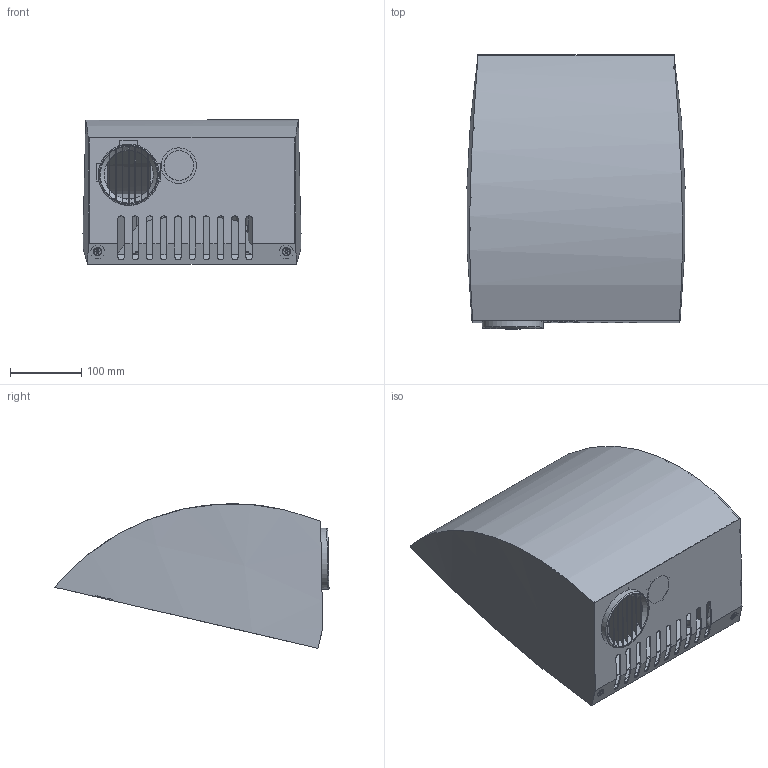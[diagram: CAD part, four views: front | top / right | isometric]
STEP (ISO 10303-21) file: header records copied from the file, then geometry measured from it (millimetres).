
FILE_DESCRIPTION((''),'2;1');
FILE_NAME('M:\Standardvarer\Håndtørrere\280 Dan Dryer - AE Design Rustfri\Tegninger\Public 3D files\280 Dan Dryer - Design AE Rustfri - 230 Volt 50Hz 2360W.stp','2010-05-05T15:19:42',('Dan Dryer'),(''),'Autodesk Inventor 2010','Autodesk Inventor 2010','');
FILE_SCHEMA(('AUTOMOTIVE_DESIGN { 1 0 10303 214 1 1 1 1 }'));
Length unit declared in the file: millimetre
Products named in the file (14): 280 Dan Dryer - Design AE Rustfri - 230 Volt 50Hz 2360W; 40025; 45180; 45180-1; 45180-2; 45180-3; 45180-4; Part6; 40006; 40065; 40096; El-plint - enkelt; 45002; 40073
Assembly tree (19 placements, depth 3):
  280 Dan Dryer - Design AE Rustfri - 230 Volt 50Hz 2360W
    40025
    45180
      45180-1
      45180-2  x3
      45180-3
      45180-4  x2
      Part6
    40006
    40065
    40096
      El-plint - enkelt  x3
    45002
    40073  x2
Bounding box: 306.77 x 385.6 x 203.3 mm (x, y, z)
Volume: 489627 mm3; surface area: 893774.5 mm2
Topology: 17 solids, 18 shells, 752 faces, 2085 edges, 1386 vertices
Faces by surface type: plane 467, cylinder 188, bspline 74, cone 17, torus 6
Full cylindrical faces by diameter (mm): 2.5 x3, 3.5 x3, 4.3 x6, 5.5 x6, 6 x2, 7.5 x1, 8 x3, 9.5 x2, 10 x6, 14 x3, 16 x3, 20 x2, 38 x1, 41.8 x1, 42 x1, 50 x1, 86 x1
Entity records: 22218 total; most frequent: CARTESIAN_POINT 5686, ORIENTED_EDGE 3428, DIRECTION 3207, EDGE_CURVE 1714, VERTEX_POINT 1176, VECTOR 1111, LINE 1111, AXIS2_PLACEMENT_3D 1048
